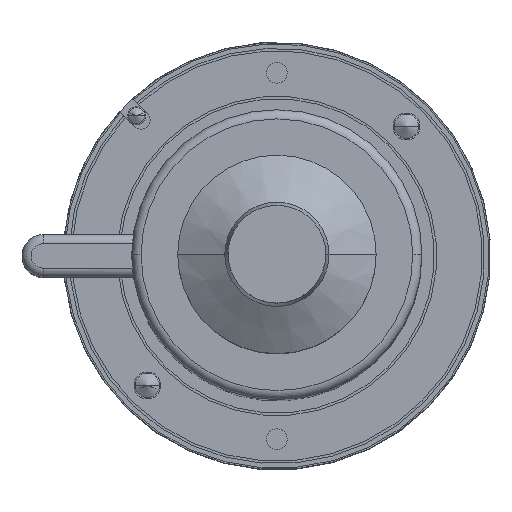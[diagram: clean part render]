
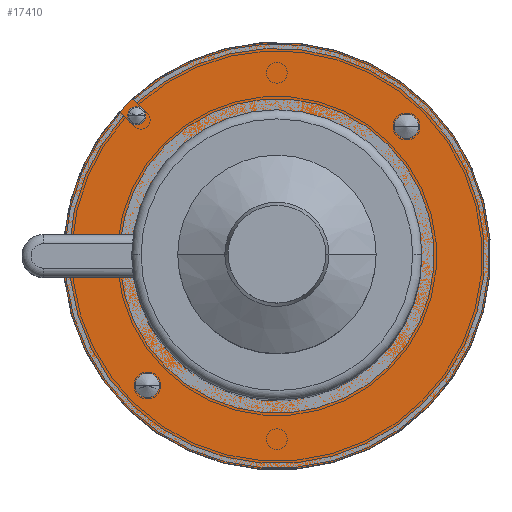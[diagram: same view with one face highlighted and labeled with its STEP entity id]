
A CAD part, top view. The second image highlights one B-rep face of the part: STEP entity #17410.
In plain terms, the highlighted planar face has unit normal (0, 0, 1).
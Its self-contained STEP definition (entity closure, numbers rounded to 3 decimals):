
#5992 = CARTESIAN_POINT ( 'NONE',  ( 0., 0., 32. ) ) ;
#5993 = DIRECTION ( 'NONE',  ( 0., 0., 1. ) ) ;
#5994 = DIRECTION ( 'NONE',  ( -1., 0., 0. ) ) ;
#6036 = CARTESIAN_POINT ( 'NONE',  ( 0., 0., 32. ) ) ;
#6037 = DIRECTION ( 'NONE',  ( 0., 0., -1. ) ) ;
#6038 = DIRECTION ( 'NONE',  ( -1., 0., 0. ) ) ;
#6089 = CARTESIAN_POINT ( 'NONE',  ( 0., 7., 32. ) ) ;
#6090 = DIRECTION ( 'NONE',  ( 1., 0., 0. ) ) ;
#6109 = CARTESIAN_POINT ( 'NONE',  ( 42.426, 42.426, 32. ) ) ;
#6110 = DIRECTION ( 'NONE',  ( 0., 0., 1. ) ) ;
#6111 = DIRECTION ( 'NONE',  ( 1., 0., 0. ) ) ;
#6120 = CARTESIAN_POINT ( 'NONE',  ( -42.426, -42.426, 32. ) ) ;
#6121 = DIRECTION ( 'NONE',  ( 0., 0., 1. ) ) ;
#6122 = DIRECTION ( 'NONE',  ( -1., 0., 0. ) ) ;
#6175 = CARTESIAN_POINT ( 'NONE',  ( 42.426, 42.426, 32. ) ) ;
#6176 = DIRECTION ( 'NONE',  ( 0., 0., 1. ) ) ;
#6177 = DIRECTION ( 'NONE',  ( 1., 0., 0. ) ) ;
#6178 = CARTESIAN_POINT ( 'NONE',  ( -45.962, 45.962, 32. ) ) ;
#6179 = DIRECTION ( 'NONE',  ( 0., 0., 1. ) ) ;
#6180 = DIRECTION ( 'NONE',  ( -1., 0., 0. ) ) ;
#6289 = AXIS2_PLACEMENT_3D ( 'NONE', #5992, #5993, #5994 ) ;
#6301 = AXIS2_PLACEMENT_3D ( 'NONE', #6036, #6037, #6038 ) ;
#6312 = AXIS2_PLACEMENT_3D ( 'NONE', #6109, #6110, #6111 ) ;
#6315 = AXIS2_PLACEMENT_3D ( 'NONE', #6120, #6121, #6122 ) ;
#6326 = AXIS2_PLACEMENT_3D ( 'NONE', #6175, #6176, #6177 ) ;
#6327 = AXIS2_PLACEMENT_3D ( 'NONE', #6178, #6179, #6180 ) ;
#6340 = AXIS2_PLACEMENT_3D ( 'NONE', #7316, #7317, #7318 ) ;
#6342 = AXIS2_PLACEMENT_3D ( 'NONE', #7324, #7325, #7326 ) ;
#6353 = AXIS2_PLACEMENT_3D ( 'NONE', #7383, #7384, #7385 ) ;
#6660 = CIRCLE ( 'NONE', #6289, 47.5 ) ;
#6681 = CIRCLE ( 'NONE', #6301, 70. ) ;
#6700 = LINE ( 'NONE', #6089, #6702 ) ;
#6702 = VECTOR ( 'NONE', #6090, 1000. ) ;
#6714 = CIRCLE ( 'NONE', #6312, 4. ) ;
#6719 = CIRCLE ( 'NONE', #6315, 4. ) ;
#6751 = CIRCLE ( 'NONE', #6326, 4. ) ;
#6753 = CIRCLE ( 'NONE', #6327, 3. ) ;
#6769 = LINE ( 'NONE', #7279, #6771 ) ;
#6771 = VECTOR ( 'NONE', #7280, 1000. ) ;
#6790 = CIRCLE ( 'NONE', #6340, 47.5 ) ;
#6794 = CIRCLE ( 'NONE', #6342, 3. ) ;
#6813 = CIRCLE ( 'NONE', #6353, 4. ) ;
#7279 = CARTESIAN_POINT ( 'NONE',  ( 0., -7., 32. ) ) ;
#7280 = DIRECTION ( 'NONE',  ( -1., 0., 0. ) ) ;
#7316 = CARTESIAN_POINT ( 'NONE',  ( 0., 0., 32. ) ) ;
#7317 = DIRECTION ( 'NONE',  ( 0., 0., 1. ) ) ;
#7318 = DIRECTION ( 'NONE',  ( -1., 0., 0. ) ) ;
#7324 = CARTESIAN_POINT ( 'NONE',  ( -45.962, 45.962, 32. ) ) ;
#7325 = DIRECTION ( 'NONE',  ( 0., 0., 1. ) ) ;
#7326 = DIRECTION ( 'NONE',  ( -1., 0., 0. ) ) ;
#7383 = CARTESIAN_POINT ( 'NONE',  ( -42.426, -42.426, 32. ) ) ;
#7384 = DIRECTION ( 'NONE',  ( 0., 0., 1. ) ) ;
#7385 = DIRECTION ( 'NONE',  ( -1., 0., 0. ) ) ;
#10824 = CARTESIAN_POINT ( 'NONE',  ( -69.649, -7., 32. ) ) ;
#10892 = CARTESIAN_POINT ( 'NONE',  ( -69.649, 7., 32. ) ) ;
#10970 = CARTESIAN_POINT ( 'NONE',  ( -46.981, 7., 32. ) ) ;
#11146 = CARTESIAN_POINT ( 'NONE',  ( 38.426, 42.426, 32. ) ) ;
#11206 = CARTESIAN_POINT ( 'NONE',  ( 47.5, 0., 32. ) ) ;
#11213 = CARTESIAN_POINT ( 'NONE',  ( -46.426, -42.426, 32. ) ) ;
#11216 = CARTESIAN_POINT ( 'NONE',  ( -38.426, -42.426, 32. ) ) ;
#11269 = CARTESIAN_POINT ( 'NONE',  ( -46.981, -7., 32. ) ) ;
#11280 = CARTESIAN_POINT ( 'NONE',  ( -48.962, 45.962, 32. ) ) ;
#11535 = CARTESIAN_POINT ( 'NONE',  ( 46.426, 42.426, 32. ) ) ;
#11543 = CARTESIAN_POINT ( 'NONE',  ( -42.962, 45.962, 32. ) ) ;
#14674 = AXIS2_PLACEMENT_3D ( 'NONE', #25363, #25364, #25365 ) ;
#14892 = EDGE_LOOP ( 'NONE', ( #21994, #21996 ) ) ;
#14902 = EDGE_LOOP ( 'NONE', ( #22002, #22011 ) ) ;
#14927 = EDGE_LOOP ( 'NONE', ( #21998, #22001 ) ) ;
#17410 = ADVANCED_FACE ( 'NONE', ( #25633, #25634, #25635, #25636 ), #25362, .F. ) ;
#19976 = EDGE_CURVE ( 'NONE', #30106, #30043, #6660, .T. ) ;
#19992 = EDGE_CURVE ( 'NONE', #29729, #29661, #6681, .T. ) ;
#20007 = EDGE_CURVE ( 'NONE', #29729, #29807, #6700, .T. ) ;
#20015 = EDGE_CURVE ( 'NONE', #29983, #30372, #6714, .T. ) ;
#20019 = EDGE_CURVE ( 'NONE', #30053, #30050, #6719, .T. ) ;
#20041 = EDGE_CURVE ( 'NONE', #30372, #29983, #6751, .T. ) ;
#20042 = EDGE_CURVE ( 'NONE', #30117, #30380, #6753, .T. ) ;
#20053 = EDGE_CURVE ( 'NONE', #30106, #29661, #6769, .T. ) ;
#20067 = EDGE_CURVE ( 'NONE', #30043, #29807, #6790, .T. ) ;
#20070 = EDGE_CURVE ( 'NONE', #30380, #30117, #6794, .T. ) ;
#20086 = EDGE_CURVE ( 'NONE', #30050, #30053, #6813, .T. ) ;
#21980 = ORIENTED_EDGE ( 'NONE', *, *, #19976, .F. ) ;
#21985 = ORIENTED_EDGE ( 'NONE', *, *, #20053, .T. ) ;
#21988 = ORIENTED_EDGE ( 'NONE', *, *, #19992, .F. ) ;
#21989 = ORIENTED_EDGE ( 'NONE', *, *, #20007, .T. ) ;
#21990 = ORIENTED_EDGE ( 'NONE', *, *, #20067, .F. ) ;
#21994 = ORIENTED_EDGE ( 'NONE', *, *, #20042, .F. ) ;
#21996 = ORIENTED_EDGE ( 'NONE', *, *, #20070, .F. ) ;
#21998 = ORIENTED_EDGE ( 'NONE', *, *, #20041, .F. ) ;
#22001 = ORIENTED_EDGE ( 'NONE', *, *, #20015, .F. ) ;
#22002 = ORIENTED_EDGE ( 'NONE', *, *, #20086, .F. ) ;
#22011 = ORIENTED_EDGE ( 'NONE', *, *, #20019, .F. ) ;
#25362 = PLANE ( 'NONE',  #14674 ) ;
#25363 = CARTESIAN_POINT ( 'NONE',  ( 0., 32.5, 32. ) ) ;
#25364 = DIRECTION ( 'NONE',  ( 0., 0., -1. ) ) ;
#25365 = DIRECTION ( 'NONE',  ( -1., 0., 0. ) ) ;
#25633 = FACE_OUTER_BOUND ( 'NONE', #27686, .T. ) ;
#25634 = FACE_BOUND ( 'NONE', #14892, .T. ) ;
#25635 = FACE_BOUND ( 'NONE', #14927, .T. ) ;
#25636 = FACE_BOUND ( 'NONE', #14902, .T. ) ;
#27686 = EDGE_LOOP ( 'NONE', ( #21980, #21985, #21988, #21989, #21990 ) ) ;
#29661 = VERTEX_POINT ( 'NONE', #10824 ) ;
#29729 = VERTEX_POINT ( 'NONE', #10892 ) ;
#29807 = VERTEX_POINT ( 'NONE', #10970 ) ;
#29983 = VERTEX_POINT ( 'NONE', #11146 ) ;
#30043 = VERTEX_POINT ( 'NONE', #11206 ) ;
#30050 = VERTEX_POINT ( 'NONE', #11213 ) ;
#30053 = VERTEX_POINT ( 'NONE', #11216 ) ;
#30106 = VERTEX_POINT ( 'NONE', #11269 ) ;
#30117 = VERTEX_POINT ( 'NONE', #11280 ) ;
#30372 = VERTEX_POINT ( 'NONE', #11535 ) ;
#30380 = VERTEX_POINT ( 'NONE', #11543 ) ;
